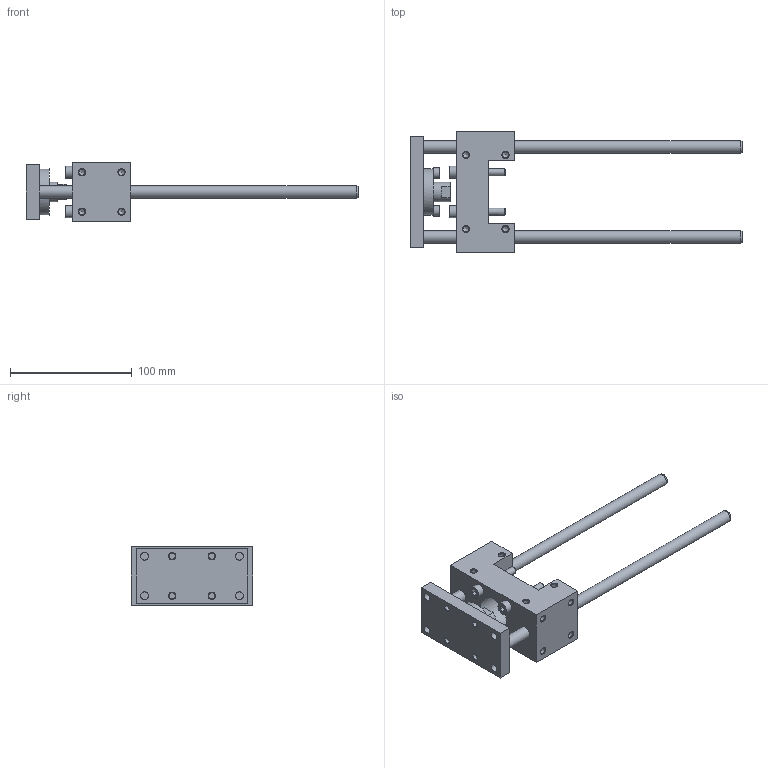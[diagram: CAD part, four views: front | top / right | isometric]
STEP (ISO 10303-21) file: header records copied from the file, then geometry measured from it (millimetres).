
FILE_DESCRIPTION( ( 'STEP AP214' ), '1' );
FILE_NAME( 'U:/Etudes/Top Solid/BIBLIO 3D AVM/TOP/PNEUMATIQUE/GUIDAGES/Type 34 (en U)/_Légère/3443130.step', '2005-05-27T12:19:54', ( ' ' ), ( ' ' ), 'XStep 1.0', ' ', ' ' );
FILE_SCHEMA( ( 'automotive_design' ) );
Length unit declared in the file: metre
Products named in the file (2): 1; 2
Bounding box: 273 x 100 x 48 mm (x, y, z)
Volume: 242845.5 mm3; surface area: 69973.3 mm2
Topology: 2 solids, 5 shells, 207 faces, 500 edges, 327 vertices
Faces by surface type: plane 90, cylinder 72, cone 45
Full cylindrical faces by diameter (mm): 4.134 x4, 4.918 x28, 5 x4, 5.5 x2, 6 x8, 6.5 x8, 8.5 x2, 8.647 x2, 10 x8, 16 x1, 18 x1, 22.8 x1, 25 x1, 30 x1, 38 x1
Entity records: 6811 total; most frequent: CARTESIAN_POINT 993, DIRECTION 882, ORIENTED_EDGE 628, EDGE_LOOP 376, AXIS2_PLACEMENT_3D 365, EDGE_CURVE 314, FACE_OUTER_BOUND 279, VERTEX_POINT 272
